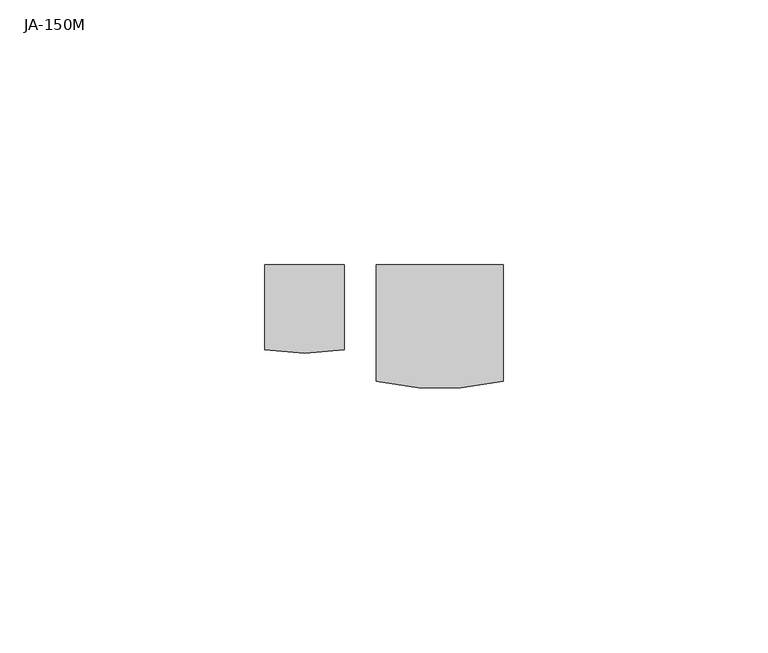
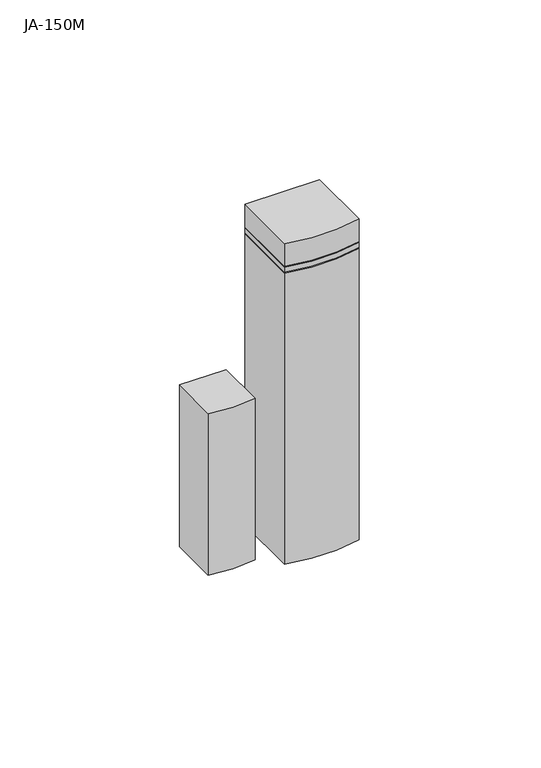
"""IFC4 building model written with IfcOpenShell, lengths in millimetres: proxy geometry, MG detektory.CC : JA-150M."""

from ifc_helpers import new_model, si_unit, point, frame, frame_2d, origin, place, context, project, spatial, polyline, circle_curve, trimmed, segment, composite_curve, outline, extrude, source, transform, mapped, element, save


def ja_150m_5d9e9f14(model_context):
    return source(origin(), model_context, "Body", "SweptSolid", [
        extrude(outline(composite_curve([segment(polyline([(12.0, 0.0), (12.0, -22.0)]), True, "CONTINUOUS"), segment(trimmed(circle_curve(frame_2d((0.0, 28.4356298)), 51.8435411), [point((12.0, -22.0))], [point((-12.0, -22.0))], False, "CARTESIAN"), True, "CONTINUOUS"), segment(polyline([(-12.0, -22.0), (-12.0, 0.0), (12.0, 0.0)]), True, "CONTINUOUS")], self_intersect=False)), frame((0.0, 0.0, -54.5), z_axis=(0.0, 0.0, 1.0), x_axis=(1.0, 0.0, 0.0)), (0.0, 0.0, 1.0), 99.0),
        extrude(outline(composite_curve([segment(polyline([(-18.0, 0.0), (-18.0, -16.0)]), True, "CONTINUOUS"), segment(trimmed(circle_curve(frame_2d((-25.5, 23.1423284)), 39.8543834), [point((-18.0, -16.0))], [point((-33.0, -16.0))], False, "CARTESIAN"), True, "CONTINUOUS"), segment(polyline([(-33.0, -16.0), (-33.0, 0.0), (-18.0, 0.0)]), True, "CONTINUOUS")], self_intersect=False)), frame((0.0, 0.0, -54.5), z_axis=(0.0, 0.0, 1.0), x_axis=(1.0, 0.0, 0.0)), (0.0, 0.0, 1.0), 55.0),
        extrude(outline(composite_curve([segment(polyline([(12.0, 0.0), (12.0, -22.0)]), True, "CONTINUOUS"), segment(trimmed(circle_curve(frame_2d((0.0, 28.4356298)), 51.8435411), [point((12.0, -22.0))], [point((-12.0, -22.0))], False, "CARTESIAN"), True, "CONTINUOUS"), segment(polyline([(-12.0, -22.0), (-12.0, 0.0), (12.0, 0.0)]), True, "CONTINUOUS")], self_intersect=False)), frame((0.0, 0.0, 44.5), z_axis=(0.0, 0.0, 1.0), x_axis=(1.0, 0.0, 0.0)), (0.0, 0.0, 1.0), 2.0),
        extrude(outline(composite_curve([segment(polyline([(12.0, 0.0), (12.0, -22.0)]), True, "CONTINUOUS"), segment(trimmed(circle_curve(frame_2d((0.0, 28.4356298)), 51.8435411), [point((12.0, -22.0))], [point((-12.0, -22.0))], False, "CARTESIAN"), True, "CONTINUOUS"), segment(polyline([(-12.0, -22.0), (-12.0, 0.0), (12.0, 0.0)]), True, "CONTINUOUS")], self_intersect=False)), frame((0.0, 0.0, 46.5), z_axis=(0.0, 0.0, 1.0), x_axis=(1.0, 0.0, 0.0)), (0.0, 0.0, 1.0), 8.0),
    ])


if __name__ == "__main__":
    model = new_model("IFC4")
    model_context = context("Model", 3, world=origin())
    ifc_project = project(units=[si_unit("LENGTHUNIT", "METRE", prefix="MILLI")], contexts=[model_context])
    site = spatial("IfcSite", under=ifc_project)
    building = spatial("IfcBuilding", under=site)
    placement = place(None, origin())
    ja_150m_shape = ja_150m_5d9e9f14(model_context)
    element("IfcBuildingElementProxy", 1, Name="MG detektory.CC : JA-150M", ObjectType="MG detektory.CC : JA-150M", at=placement, inside=building, context=model_context, shape_type="MappedRepresentation", body=[
        mapped(ja_150m_shape, transform((0.0, 0.0, 0.0), x_axis=(1.0, 0.0, 0.0), y_axis=(0.0, 1.0, 0.0), z_axis=(0.0, 0.0, 1.0))),
    ])
    save(model, "model.ifc")
